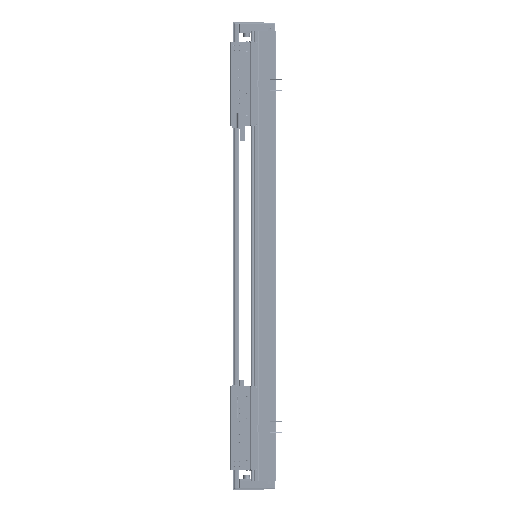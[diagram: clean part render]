
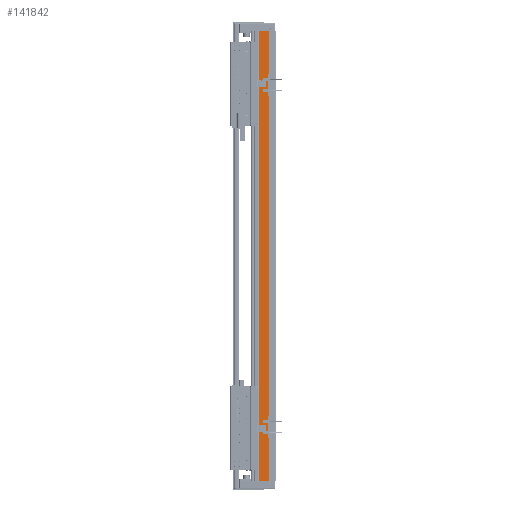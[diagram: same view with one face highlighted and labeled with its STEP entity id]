
A CAD part, left-side view. The second image highlights one B-rep face of the part: STEP entity #141842.
In plain terms, the highlighted planar face has unit normal (-1, 0, 0).
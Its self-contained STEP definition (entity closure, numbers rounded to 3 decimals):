
#14342 = VERTEX_POINT ( 'NONE', #75857 ) ;
#15449 = VECTOR ( 'NONE', #101678, 1000. ) ;
#16466 = EDGE_LOOP ( 'NONE', ( #78668, #31996, #32422, #30807 ) ) ;
#19923 = VERTEX_POINT ( 'NONE', #31153 ) ;
#30807 = ORIENTED_EDGE ( 'NONE', *, *, #101970, .T. ) ;
#31153 = CARTESIAN_POINT ( 'NONE',  ( -97.5, 14.45, 510. ) ) ;
#31996 = ORIENTED_EDGE ( 'NONE', *, *, #108891, .F. ) ;
#32422 = ORIENTED_EDGE ( 'NONE', *, *, #103046, .F. ) ;
#33545 = DIRECTION ( 'NONE',  ( 0., -1., 0. ) ) ;
#38833 = VERTEX_POINT ( 'NONE', #152640 ) ;
#39411 = EDGE_CURVE ( 'NONE', #14342, #103919, #65847, .T. ) ;
#41997 = LINE ( 'NONE', #89493, #48175 ) ;
#42218 = AXIS2_PLACEMENT_3D ( 'NONE', #43376, #138448, #125985 ) ;
#43376 = CARTESIAN_POINT ( 'NONE',  ( -97.5, 36.95, 510. ) ) ;
#44117 = FACE_OUTER_BOUND ( 'NONE', #16466, .T. ) ;
#48175 = VECTOR ( 'NONE', #59054, 1000. ) ;
#59054 = DIRECTION ( 'NONE',  ( 0., 0., -1. ) ) ;
#61017 = CARTESIAN_POINT ( 'NONE',  ( -97.5, 14.45, 510. ) ) ;
#65847 = LINE ( 'NONE', #113381, #15449 ) ;
#75857 = CARTESIAN_POINT ( 'NONE',  ( -97.5, 36.95, -510. ) ) ;
#78668 = ORIENTED_EDGE ( 'NONE', *, *, #39411, .T. ) ;
#84373 = LINE ( 'NONE', #61017, #90658 ) ;
#84496 = CARTESIAN_POINT ( 'NONE',  ( -97.5, 14.45, -510. ) ) ;
#89493 = CARTESIAN_POINT ( 'NONE',  ( -97.5, 36.95, 510. ) ) ;
#90658 = VECTOR ( 'NONE', #99140, 1000. ) ;
#90886 = PLANE ( 'NONE',  #42218 ) ;
#92719 = CARTESIAN_POINT ( 'NONE',  ( -97.5, 36.95, 510. ) ) ;
#99140 = DIRECTION ( 'NONE',  ( 0., 0., -1. ) ) ;
#101678 = DIRECTION ( 'NONE',  ( 0., -1., 0. ) ) ;
#101970 = EDGE_CURVE ( 'NONE', #38833, #14342, #41997, .T. ) ;
#103046 = EDGE_CURVE ( 'NONE', #38833, #19923, #105194, .T. ) ;
#103919 = VERTEX_POINT ( 'NONE', #84496 ) ;
#105194 = LINE ( 'NONE', #92719, #137974 ) ;
#108891 = EDGE_CURVE ( 'NONE', #19923, #103919, #84373, .T. ) ;
#113381 = CARTESIAN_POINT ( 'NONE',  ( -97.5, 36.95, -510. ) ) ;
#125985 = DIRECTION ( 'NONE',  ( 0., 1., 0. ) ) ;
#137974 = VECTOR ( 'NONE', #33545, 1000. ) ;
#138448 = DIRECTION ( 'NONE',  ( 1., 0., 0. ) ) ;
#141842 = ADVANCED_FACE ( 'NONE', ( #44117 ), #90886, .F. ) ;
#152640 = CARTESIAN_POINT ( 'NONE',  ( -97.5, 36.95, 510. ) ) ;
